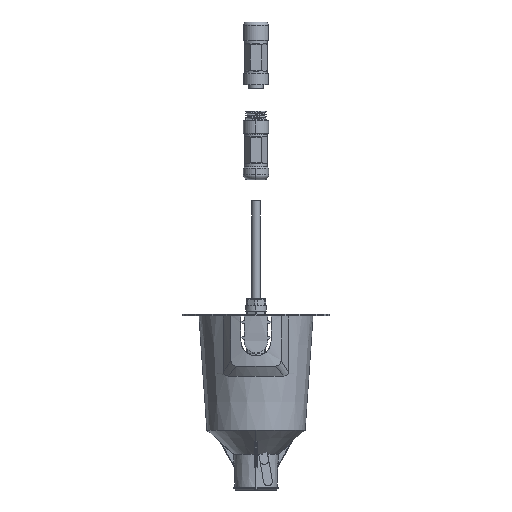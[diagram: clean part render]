
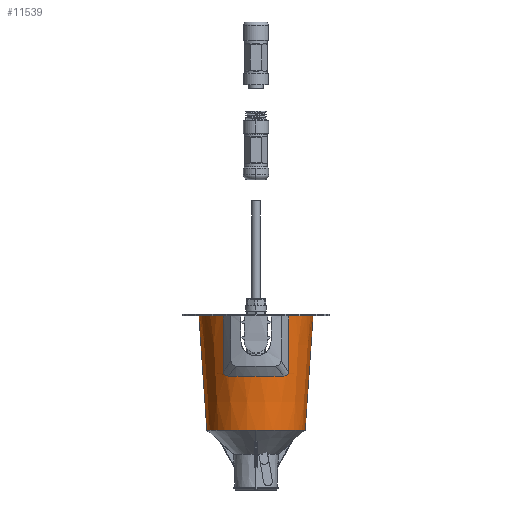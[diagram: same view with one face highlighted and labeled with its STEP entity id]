
A CAD part, left-side view. The second image highlights one B-rep face of the part: STEP entity #11539.
In plain terms, the highlighted conical face has half-angle 3.984 degrees and reference radius 32.515 mm.
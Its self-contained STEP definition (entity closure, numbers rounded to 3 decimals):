
#78=CARTESIAN_POINT('',(0.,0.,78.796));
#79=DIRECTION('',(0.,0.,-1.));
#80=DIRECTION('',(0.,-1.,0.));
#81=AXIS2_PLACEMENT_3D('',#78,#79,#80);
#2636=DIRECTION('',(0.,-0.069,-0.998));
#2637=VECTOR('',#2636,70.169);
#2638=CARTESIAN_POINT('',(0.,34.952,78.796));
#2639=LINE('',#2638,#2637);
#2645=CARTESIAN_POINT('',(0.,0.,8.797));
#2646=DIRECTION('',(0.,0.,1.));
#2647=DIRECTION('',(0.,1.,0.));
#2648=AXIS2_PLACEMENT_3D('',#2645,#2646,#2647);
#2650=CARTESIAN_POINT('',(-28.571,20.133,78.796));
#2651=CARTESIAN_POINT('',(-28.269,20.102,74.993));
#2652=CARTESIAN_POINT('',(-27.664,20.037,67.382));
#2653=CARTESIAN_POINT('',(-26.75,19.938,55.952));
#2654=CARTESIAN_POINT('',(-26.135,19.869,48.322));
#2655=CARTESIAN_POINT('',(-25.827,19.833,44.504));
#2657=CARTESIAN_POINT('',(-25.827,19.833,44.504));
#2658=CARTESIAN_POINT('',(-25.817,19.832,44.38));
#2659=CARTESIAN_POINT('',(-25.807,19.818,44.145));
#2660=CARTESIAN_POINT('',(-25.819,19.768,43.837));
#2661=CARTESIAN_POINT('',(-25.853,19.692,43.563));
#2662=CARTESIAN_POINT('',(-25.908,19.591,43.317));
#2663=CARTESIAN_POINT('',(-25.983,19.466,43.094));
#2664=CARTESIAN_POINT('',(-26.081,19.31,42.887));
#2665=CARTESIAN_POINT('',(-26.204,19.12,42.694));
#2666=CARTESIAN_POINT('',(-26.359,18.885,42.513));
#2667=CARTESIAN_POINT('',(-26.548,18.599,42.35));
#2668=CARTESIAN_POINT('',(-26.773,18.257,42.212));
#2669=CARTESIAN_POINT('',(-27.032,17.858,42.105));
#2670=CARTESIAN_POINT('',(-27.325,17.398,42.036));
#2671=CARTESIAN_POINT('',(-27.542,17.048,42.019));
#2672=CARTESIAN_POINT('',(-27.656,16.862,42.019));
#2674=CARTESIAN_POINT('',(0.,0.,42.019));
#2675=DIRECTION('',(0.,0.,1.));
#2676=DIRECTION('',(-0.854,0.521,0.));
#2677=AXIS2_PLACEMENT_3D('',#2674,#2675,#2676);
#2679=CARTESIAN_POINT('',(-27.655,-16.862,
42.019));
#2680=CARTESIAN_POINT('',(-27.542,-17.049,
42.019));
#2681=CARTESIAN_POINT('',(-27.324,-17.399,
42.036));
#2682=CARTESIAN_POINT('',(-27.032,-17.858,
42.105));
#2683=CARTESIAN_POINT('',(-26.773,-18.257,
42.212));
#2684=CARTESIAN_POINT('',(-26.548,-18.599,
42.35));
#2685=CARTESIAN_POINT('',(-26.358,-18.885,
42.513));
#2686=CARTESIAN_POINT('',(-26.204,-19.121,
42.694));
#2687=CARTESIAN_POINT('',(-26.08,-19.311,
42.887));
#2688=CARTESIAN_POINT('',(-25.983,-19.466,
43.094));
#2689=CARTESIAN_POINT('',(-25.908,-19.592,
43.317));
#2690=CARTESIAN_POINT('',(-25.852,-19.693,
43.563));
#2691=CARTESIAN_POINT('',(-25.818,-19.769,
43.837));
#2692=CARTESIAN_POINT('',(-25.807,-19.819,
44.145));
#2693=CARTESIAN_POINT('',(-25.817,-19.832,
44.38));
#2694=CARTESIAN_POINT('',(-25.827,-19.834,
44.504));
#2696=DIRECTION('',(-0.08,-0.009,0.997));
#2697=VECTOR('',#2696,34.403);
#2698=CARTESIAN_POINT('',(-25.827,-19.834,
44.504));
#2699=LINE('',#2698,#2697);
#2700=DIRECTION('',(0.,0.069,-0.998));
#2701=VECTOR('',#2700,70.169);
#2702=CARTESIAN_POINT('',(0.,-34.952,78.796));
#2703=LINE('',#2702,#2701);
#2704=CARTESIAN_POINT('',(0.,0.,8.797));
#2705=DIRECTION('',(0.,0.,1.));
#2706=DIRECTION('',(-1.,0.,0.));
#2707=AXIS2_PLACEMENT_3D('',#2704,#2705,#2706);
#2740=CARTESIAN_POINT('',(0.,0.,78.796));
#2741=DIRECTION('',(0.,0.,-1.));
#2742=DIRECTION('',(-0.817,0.576,0.));
#2743=AXIS2_PLACEMENT_3D('',#2740,#2741,#2742);
#4350=CARTESIAN_POINT('',(-25.827,-19.834,
44.504));
#4384=CARTESIAN_POINT('',(-28.571,20.133,78.796));
#7091=CARTESIAN_POINT('',(0.,34.952,78.796));
#7092=VERTEX_POINT('',#7091);
#7094=CARTESIAN_POINT('',(0.,-34.952,78.796));
#7096=VERTEX_POINT('',#7094);
#7110=CARTESIAN_POINT('',(-28.571,-20.133,78.796));
#7111=VERTEX_POINT('',#7110);
#7119=VERTEX_POINT('',#4384);
#7127=VERTEX_POINT('',#4350);
#7128=VERTEX_POINT('',#2679);
#7129=VERTEX_POINT('',#2655);
#7130=VERTEX_POINT('',#2672);
#7131=CARTESIAN_POINT('',(0.,-30.077,8.797));
#7133=VERTEX_POINT('',#7131);
#7135=CARTESIAN_POINT('',(0.,30.077,8.797));
#7136=VERTEX_POINT('',#7135);
#7137=CARTESIAN_POINT('',(-30.077,0.,8.797));
#7138=VERTEX_POINT('',#7137);
#11515=CARTESIAN_POINT('',(0.,0.,43.796));
#11516=DIRECTION('',(0.,0.,1.));
#11517=DIRECTION('',(0.,1.,0.));
#11518=AXIS2_PLACEMENT_3D('',#11515,#11516,#11517);
#11519=CONICAL_SURFACE('',#11518,32.515,3.984);
#11520=ORIENTED_EDGE('',*,*,#10026,.F.);
#11521=ORIENTED_EDGE('',*,*,#11509,.F.);
#11523=ORIENTED_EDGE('',*,*,#11522,.F.);
#11525=ORIENTED_EDGE('',*,*,#11524,.T.);
#11527=ORIENTED_EDGE('',*,*,#11526,.T.);
#11529=ORIENTED_EDGE('',*,*,#11528,.T.);
#11531=ORIENTED_EDGE('',*,*,#11530,.T.);
#11533=ORIENTED_EDGE('',*,*,#11532,.T.);
#11534=ORIENTED_EDGE('',*,*,#7949,.F.);
#11535=ORIENTED_EDGE('',*,*,#11494,.T.);
#11536=ORIENTED_EDGE('',*,*,#8932,.F.);
#11537=EDGE_LOOP('',(#11520,#11521,#11523,#11525,#11527,#11529,#11531,#11533,
#11534,#11535,#11536));
#11538=FACE_OUTER_BOUND('',#11537,.F.);
#11539=ADVANCED_FACE('',(#11538),#11519,.T.);
#82=CIRCLE('',#81,34.952);
#2649=CIRCLE('',#2648,30.077);
#2656=B_SPLINE_CURVE_WITH_KNOTS('',3,(#2650,#2651,#2652,#2653,#2654,#2655),
.UNSPECIFIED.,.F.,.F.,(4,1,1,4),(0.,0.333,0.667,1.),
.UNSPECIFIED.);
#2673=B_SPLINE_CURVE_WITH_KNOTS('',3,(#2657,#2658,#2659,#2660,#2661,#2662,#2663,
#2664,#2665,#2666,#2667,#2668,#2669,#2670,#2671,#2672),.UNSPECIFIED.,.F.,.F.,(4,
1,1,1,1,1,1,1,1,1,1,1,1,4),(0.,0.077,0.154,
0.231,0.308,0.385,0.462,
0.538,0.615,0.692,0.769,
0.846,0.923,1.),.UNSPECIFIED.);
#2678=CIRCLE('',#2677,32.391);
#2695=B_SPLINE_CURVE_WITH_KNOTS('',3,(#2679,#2680,#2681,#2682,#2683,#2684,#2685,
#2686,#2687,#2688,#2689,#2690,#2691,#2692,#2693,#2694),.UNSPECIFIED.,.F.,.F.,(4,
1,1,1,1,1,1,1,1,1,1,1,1,4),(0.,0.077,0.154,
0.231,0.308,0.385,0.462,
0.538,0.615,0.692,0.769,
0.846,0.923,1.),.UNSPECIFIED.);
#2708=CIRCLE('',#2707,30.077);
#2744=CIRCLE('',#2743,34.952);
#7949=EDGE_CURVE('',#7096,#7111,#82,.T.);
#8932=EDGE_CURVE('',#7138,#7133,#2708,.T.);
#10026=EDGE_CURVE('',#7136,#7138,#2649,.T.);
#11494=EDGE_CURVE('',#7096,#7133,#2703,.T.);
#11509=EDGE_CURVE('',#7092,#7136,#2639,.T.);
#11522=EDGE_CURVE('',#7119,#7092,#2744,.T.);
#11524=EDGE_CURVE('',#7119,#7129,#2656,.T.);
#11526=EDGE_CURVE('',#7129,#7130,#2673,.T.);
#11528=EDGE_CURVE('',#7130,#7128,#2678,.T.);
#11530=EDGE_CURVE('',#7128,#7127,#2695,.T.);
#11532=EDGE_CURVE('',#7127,#7111,#2699,.T.);
